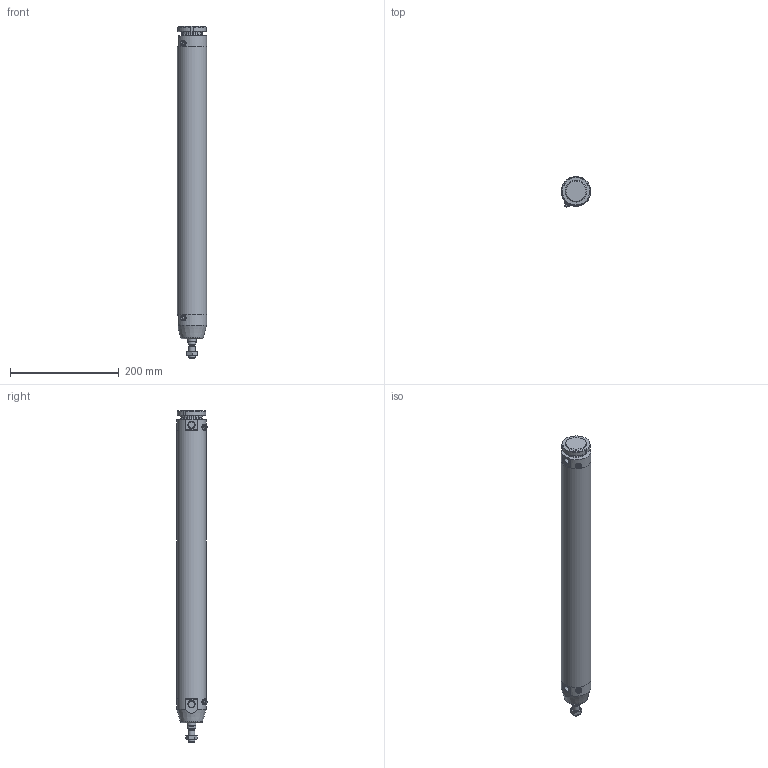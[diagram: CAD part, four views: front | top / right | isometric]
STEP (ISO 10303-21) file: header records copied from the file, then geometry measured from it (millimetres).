
FILE_DESCRIPTION(/* description */ (''),/* implementation_level */ '2;1');
FILE_NAME(/* name */ 'I:\Area Tecnica\Documenti\A-Manieri\_Inventor\12X\12X#B_###_####_#_#\12XBB_050_0450_#_#.stp',/* time_stamp */ '2015-04-28T14:29:30+02:00',/* author */ ('maniean1'),/* organization */ ('Pneumax S.p.A.'),/* preprocessor_version */ 'ST-DEVELOPER v15.2',/* originating_system */ 'Autodesk Inventor 2014',/* authorisation */ '');
FILE_SCHEMA (('AUTOMOTIVE_DESIGN { 1 0 10303 214 3 1 1 }'));
Length unit declared in the file: millimetre
Products named in the file (7): C1250_619-0450; 12X50_614; S12X50_0450; 12X_50_11; 12X50_621; G12X_050_05; 12XBB_050_0450_#_#
Bounding box: 54 x 55.88 x 610 mm (x, y, z)
Volume: 505053 mm3; surface area: 227028.4 mm2
Topology: 6 solids, 6 shells, 98 faces, 217 edges, 140 vertices
Faces by surface type: plane 52, cylinder 24, cone 19, torus 3
Full cylindrical faces by diameter (mm): 5 x2, 10.2 x1, 11 x2, 11.4 x2, 12 x2, 14 x1, 15.6 x1, 16 x1, 38.2 x1, 40 x3, 50 x2, 54 x3
Entity records: 2646 total; most frequent: CARTESIAN_POINT 539, DIRECTION 439, ORIENTED_EDGE 346, AXIS2_PLACEMENT_3D 186, EDGE_CURVE 173, EDGE_LOOP 150, VERTEX_POINT 131, ADVANCED_FACE 98
